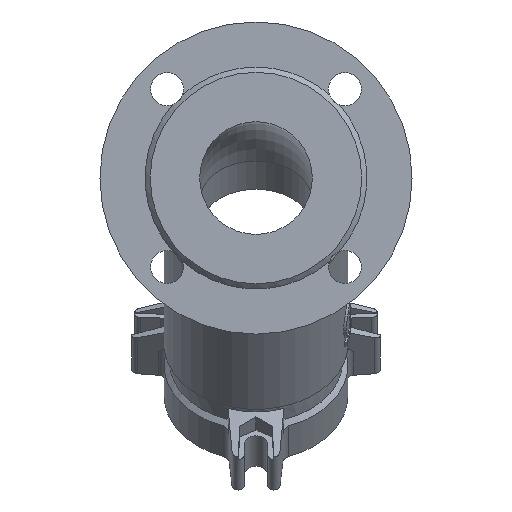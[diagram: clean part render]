
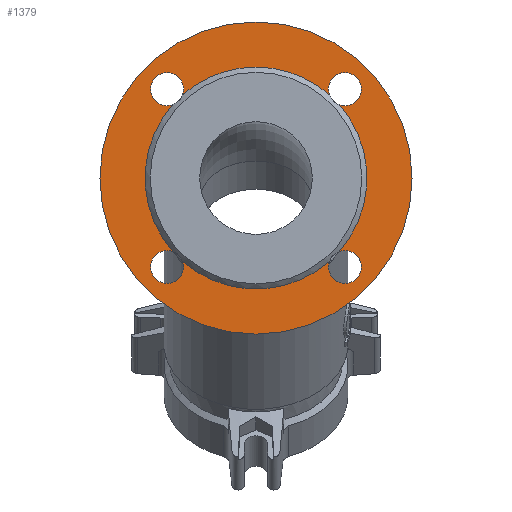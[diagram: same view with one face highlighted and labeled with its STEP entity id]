
A CAD part, front view. The second image highlights one B-rep face of the part: STEP entity #1379.
In plain terms, the highlighted planar face has unit normal (0, -1, 0).
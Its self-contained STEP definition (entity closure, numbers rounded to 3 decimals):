
#1379=ADVANCED_FACE('',(#3422,#3424),#3426,.T.);
#3422=FACE_BOUND('',#3423,.T.);
#3423=EDGE_LOOP('',(#5335));
#3424=FACE_BOUND('',#3425,.T.);
#3425=EDGE_LOOP('',(#5336,#5337,#5338,#5339,#5340,#5341,#5342,#5343,#5344,#5345,
#5346,#5347,#5348));
#3426=PLANE('',#3427);
#3427=AXIS2_PLACEMENT_3D('',#3428,#3429,#3430);
#3428=CARTESIAN_POINT('',(0.,3.,0.));
#3429=DIRECTION('',(0.,-1.,0.));
#3430=DIRECTION('',(0.,0.,1.));
#5335=ORIENTED_EDGE('',*,*,#5832,.F.);
#5336=ORIENTED_EDGE('',*,*,#5833,.T.);
#5337=ORIENTED_EDGE('',*,*,#5835,.T.);
#5338=ORIENTED_EDGE('',*,*,#5846,.T.);
#5339=ORIENTED_EDGE('',*,*,#5838,.T.);
#5340=ORIENTED_EDGE('',*,*,#5837,.T.);
#5341=ORIENTED_EDGE('',*,*,#5847,.T.);
#5342=ORIENTED_EDGE('',*,*,#5841,.T.);
#5343=ORIENTED_EDGE('',*,*,#5840,.T.);
#5344=ORIENTED_EDGE('',*,*,#5848,.T.);
#5345=ORIENTED_EDGE('',*,*,#5842,.T.);
#5346=ORIENTED_EDGE('',*,*,#5844,.T.);
#5347=ORIENTED_EDGE('',*,*,#5849,.T.);
#5348=ORIENTED_EDGE('',*,*,#5850,.T.);
#5832=EDGE_CURVE('',#6549,#6549,#6550,.T.);
#5833=EDGE_CURVE('',#6551,#6552,#6553,.F.);
#5835=EDGE_CURVE('',#6552,#6554,#6556,.F.);
#5837=EDGE_CURVE('',#6560,#6557,#6561,.F.);
#5838=EDGE_CURVE('',#6558,#6560,#6562,.F.);
#5840=EDGE_CURVE('',#6566,#6563,#6567,.F.);
#5841=EDGE_CURVE('',#6564,#6566,#6568,.F.);
#5842=EDGE_CURVE('',#6569,#6570,#6571,.F.);
#5844=EDGE_CURVE('',#6570,#6572,#6574,.F.);
#5846=EDGE_CURVE('',#6554,#6558,#6577,.T.);
#5847=EDGE_CURVE('',#6557,#6564,#6578,.T.);
#5848=EDGE_CURVE('',#6563,#6569,#6579,.T.);
#5849=EDGE_CURVE('',#6572,#6580,#6581,.T.);
#5850=EDGE_CURVE('',#6580,#6551,#6582,.T.);
#6549=VERTEX_POINT('',#11229);
#6550=CIRCLE('',#11230,90.);
#6551=VERTEX_POINT('',#11234);
#6552=VERTEX_POINT('',#11235);
#6553=CIRCLE('',#11236,9.5);
#6554=VERTEX_POINT('',#11240);
#6556=CIRCLE('',#11315,9.5);
#6557=VERTEX_POINT('',#11319);
#6558=VERTEX_POINT('',#11320);
#6560=VERTEX_POINT('',#11395);
#6561=CIRCLE('',#11396,9.5);
#6562=CIRCLE('',#11400,9.5);
#6563=VERTEX_POINT('',#11404);
#6564=VERTEX_POINT('',#11405);
#6566=VERTEX_POINT('',#11480);
#6567=CIRCLE('',#11481,9.5);
#6568=CIRCLE('',#11485,9.5);
#6569=VERTEX_POINT('',#11489);
#6570=VERTEX_POINT('',#11490);
#6571=CIRCLE('',#11491,9.5);
#6572=VERTEX_POINT('',#11495);
#6574=CIRCLE('',#11570,9.5);
#6577=CIRCLE('',#11579,64.);
#6578=CIRCLE('',#11583,64.);
#6579=CIRCLE('',#11587,64.);
#6580=VERTEX_POINT('',#11591);
#6581=CIRCLE('',#11592,64.);
#6582=CIRCLE('',#11596,64.);
#11229=CARTESIAN_POINT('',(0.,3.,90.));
#11230=AXIS2_PLACEMENT_3D('',#11231,#11232,#11233);
#11231=CARTESIAN_POINT('',(0.,3.,0.));
#11232=DIRECTION('',(0.,1.,0.));
#11233=DIRECTION('',(0.,0.,1.));
#11234=CARTESIAN_POINT('',(42.35,3.,47.984));
#11235=CARTESIAN_POINT('',(51.265,3.,41.765));
#11236=AXIS2_PLACEMENT_3D('',#11237,#11238,#11239);
#11237=CARTESIAN_POINT('',(51.265,3.,51.265));
#11238=DIRECTION('',(0.,-1.,0.));
#11239=DIRECTION('',(0.,0.,-1.));
#11240=CARTESIAN_POINT('',(47.984,3.,42.35));
#11315=AXIS2_PLACEMENT_3D('',#11316,#11317,#11318);
#11316=CARTESIAN_POINT('',(51.265,3.,51.265));
#11317=DIRECTION('',(0.,-1.,0.));
#11318=DIRECTION('',(-0.345,0.,-0.938));
#11319=CARTESIAN_POINT('',(42.35,3.,-47.984));
#11320=CARTESIAN_POINT('',(47.984,3.,-42.35));
#11395=CARTESIAN_POINT('',(41.765,3.,-51.265));
#11396=AXIS2_PLACEMENT_3D('',#11397,#11398,#11399);
#11397=CARTESIAN_POINT('',(51.265,3.,-51.265));
#11398=DIRECTION('',(0.,-1.,0.));
#11399=DIRECTION('',(-0.938,0.,0.345));
#11400=AXIS2_PLACEMENT_3D('',#11401,#11402,#11403);
#11401=CARTESIAN_POINT('',(51.265,3.,-51.265));
#11402=DIRECTION('',(0.,-1.,0.));
#11403=DIRECTION('',(-1.,0.,0.));
#11404=CARTESIAN_POINT('',(-47.984,3.,-42.35));
#11405=CARTESIAN_POINT('',(-42.35,3.,-47.984));
#11480=CARTESIAN_POINT('',(-51.265,3.,-41.765));
#11481=AXIS2_PLACEMENT_3D('',#11482,#11483,#11484);
#11482=CARTESIAN_POINT('',(-51.265,3.,-51.265));
#11483=DIRECTION('',(0.,-1.,0.));
#11484=DIRECTION('',(0.345,0.,0.938));
#11485=AXIS2_PLACEMENT_3D('',#11486,#11487,#11488);
#11486=CARTESIAN_POINT('',(-51.265,3.,-51.265));
#11487=DIRECTION('',(0.,-1.,0.));
#11488=DIRECTION('',(0.,0.,1.));
#11489=CARTESIAN_POINT('',(-47.984,3.,42.35));
#11490=CARTESIAN_POINT('',(-41.765,3.,51.265));
#11491=AXIS2_PLACEMENT_3D('',#11492,#11493,#11494);
#11492=CARTESIAN_POINT('',(-51.265,3.,51.265));
#11493=DIRECTION('',(0.,-1.,0.));
#11494=DIRECTION('',(1.,0.,0.));
#11495=CARTESIAN_POINT('',(-42.35,3.,47.984));
#11570=AXIS2_PLACEMENT_3D('',#11571,#11572,#11573);
#11571=CARTESIAN_POINT('',(-51.265,3.,51.265));
#11572=DIRECTION('',(0.,-1.,0.));
#11573=DIRECTION('',(0.938,0.,-0.345));
#11579=AXIS2_PLACEMENT_3D('',#11580,#11581,#11582);
#11580=CARTESIAN_POINT('',(0.,3.,0.));
#11581=DIRECTION('',(0.,1.,0.));
#11582=DIRECTION('',(0.75,0.,0.662));
#11583=AXIS2_PLACEMENT_3D('',#11584,#11585,#11586);
#11584=CARTESIAN_POINT('',(0.,3.,0.));
#11585=DIRECTION('',(0.,1.,0.));
#11586=DIRECTION('',(0.662,0.,-0.75));
#11587=AXIS2_PLACEMENT_3D('',#11588,#11589,#11590);
#11588=CARTESIAN_POINT('',(0.,3.,0.));
#11589=DIRECTION('',(0.,1.,0.));
#11590=DIRECTION('',(-0.75,0.,-0.662));
#11591=CARTESIAN_POINT('',(0.,3.,64.));
#11592=AXIS2_PLACEMENT_3D('',#11593,#11594,#11595);
#11593=CARTESIAN_POINT('',(0.,3.,0.));
#11594=DIRECTION('',(0.,1.,0.));
#11595=DIRECTION('',(-0.662,0.,0.75));
#11596=AXIS2_PLACEMENT_3D('',#11597,#11598,#11599);
#11597=CARTESIAN_POINT('',(0.,3.,0.));
#11598=DIRECTION('',(0.,1.,0.));
#11599=DIRECTION('',(0.,0.,1.));
